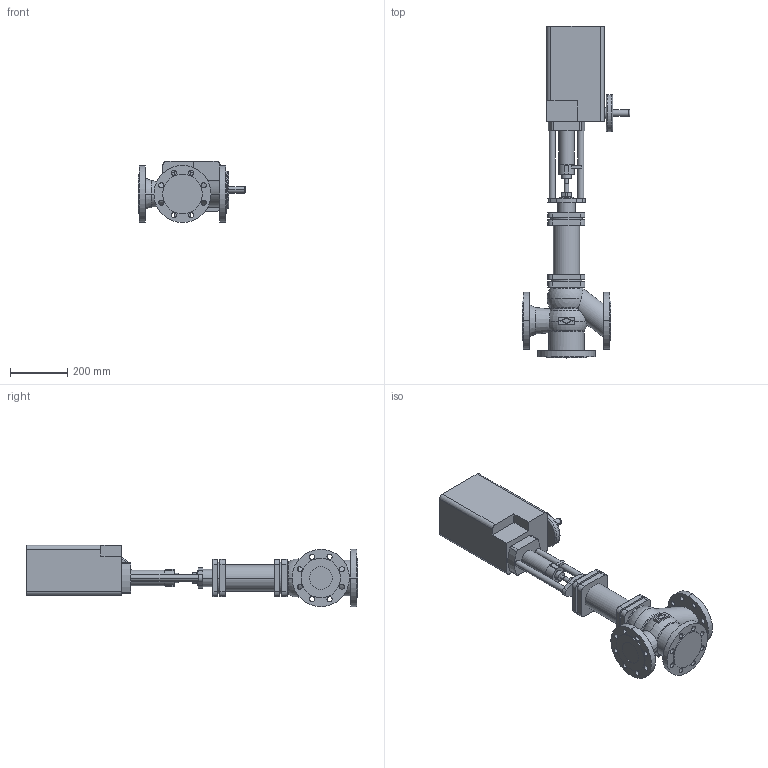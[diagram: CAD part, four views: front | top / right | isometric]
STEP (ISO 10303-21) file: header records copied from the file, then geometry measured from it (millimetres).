
FILE_DESCRIPTION(('OneSpaceDesigner STEP Export'),'2;1');
FILE_NAME('c000002466.stp','2006-09-21T11:57:36',(''),(''),'OneSpace Designer STEP processor for AP214 (Solid Model)','OneSpace Designer 13.20A 18-Aug-2005 (C) CoCreate Software GmbH','');
FILE_SCHEMA(('AUTOMOTIVE_DESIGN { 1 0 10303 214 1 1 1 1 }'));
Length unit declared in the file: millimetre
Products named in the file (2): 1; 2
Bounding box: 376.6 x 1161.2 x 214 mm (x, y, z)
Volume: 21413621.8 mm3; surface area: 960584.7 mm2
Topology: 2 solids, 2 shells, 272 faces, 691 edges, 454 vertices
Faces by surface type: cylinder 138, plane 110, torus 16, sphere 4, cone 4
Entity records: 7721 total; most frequent: CARTESIAN_POINT 1510, ORIENTED_EDGE 1374, DIRECTION 1159, EDGE_CURVE 687, VERTEX_POINT 454, AXIS2_PLACEMENT_3D 416, EDGE_LOOP 355, VECTOR 327
